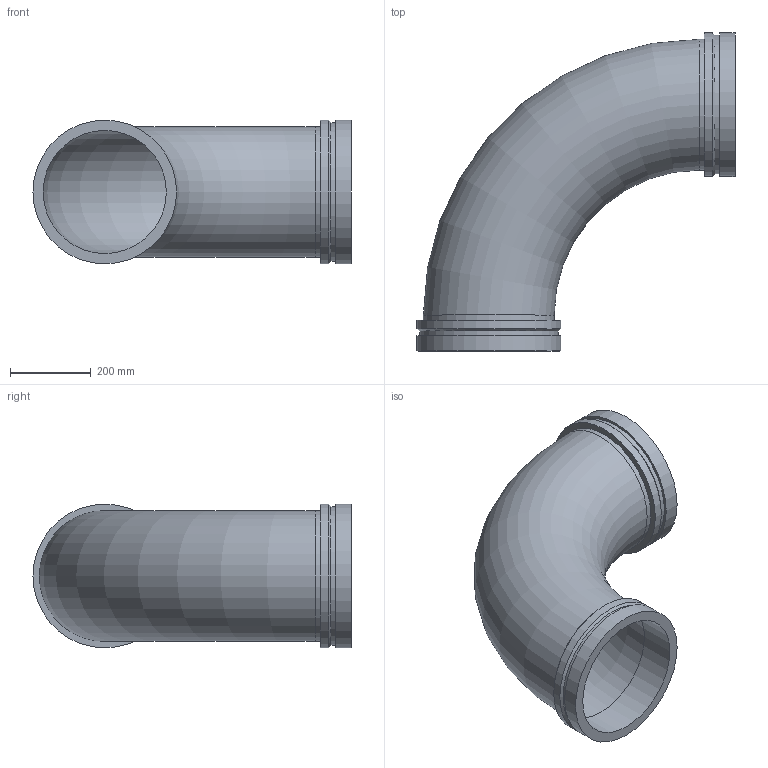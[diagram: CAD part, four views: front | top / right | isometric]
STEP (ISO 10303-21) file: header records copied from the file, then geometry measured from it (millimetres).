
FILE_DESCRIPTION(/* description */ ('VIC 90 DEG ELBOW No W100 VR','CAx-IF Rec.Pracs.---Representation and Presentation of Product Manufacturing Information (PMI)---4.0---2014-10-13'),/* implementation_level */ '2;1');
FILE_NAME(/* name */ 'C:\Users\kkamble\AppData\Roaming\Autodesk\ApplicationPlugins\Back Up\Victaulic_Vic-Ring_Elbow 90 Deg LR_No W100 VR (AGR)\Victaulic_Vic-Ring_Elbow 90 Deg LR_No W100 VR (AGR)_12 (300).stp',/* time_stamp */ '2020-09-10T11:43:35+05:00',/* author */ ('cps_temp'),/* organization */ ('Victaulic'),/* preprocessor_version */ 'ST-DEVELOPER v17.2',/* originating_system */ 'Autodesk Inventor 2019',/* authorisation */ '');
FILE_SCHEMA (('AP242_MANAGED_MODEL_BASED_3D_ENGINEERING_MIM_LF { 1 0 10303 442 1 1 4 }'));
Length unit declared in the file: inch
Products named in the file (1): W100 VR-12.0
Bounding box: 787.4 x 787.4 x 355.6 mm (x, y, z)
Volume: 11749170.3 mm3; surface area: 2087579.1 mm2
Topology: 1 solids, 1 shells, 20 faces, 51 edges, 37 vertices
Faces by surface type: cylinder 10, plane 6, cone 2, torus 2
Full cylindrical faces by diameter (mm): 304.8 x2, 323.85 x2, 342.9 x2, 355.6 x4
Entity records: 802 total; most frequent: DIRECTION 158, CARTESIAN_POINT 126, ORIENTED_EDGE 102, AXIS2_PLACEMENT_3D 73, EDGE_CURVE 51, CIRCLE 39, VERTEX_POINT 37, EDGE_LOOP 26
